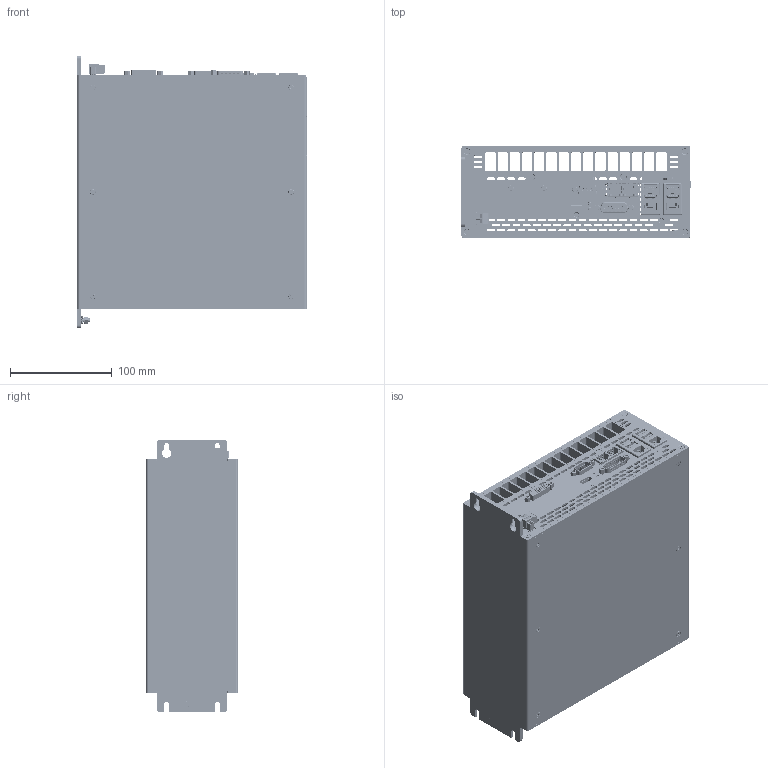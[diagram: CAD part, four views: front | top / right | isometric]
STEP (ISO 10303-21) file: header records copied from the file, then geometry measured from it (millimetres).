
FILE_DESCRIPTION (( 'STEP AP214' ), '1' );
FILE_NAME ('C6P34-BM_D0_DVI_RS232.STEP', '2019-09-20T14:01:16', ( '' ), ( '' ), 'SwSTEP 2.0', 'SolidWorks 2018', '' );
FILE_SCHEMA (( 'AUTOMOTIVE_DESIGN' ));
Length unit declared in the file: millimetre
Products named in the file (46): 14300036; piazzuola_de800_di370; 54336011; 21509048; 7359_051_Depopolata; 21505014; 21409042; 7397_212; 23330039; 62920001; foot2579_700000; 56636682; 7397_279_Depopolata; 7397_212_Depopolata; 7397_279; 21410052; 64312003; 21410046; 62990009; 20100011; 66811014; 14300030; 52500002; 21509026; C6P34-BM_D0_DVI_RS232; 21512011; 66320015; 62920005; 21405029; 53936027; 54336008_Default<A macchina>; 52536136; 21502089; 66011039; 57136005; 54236002_Default<A macchina>; 52912002; 21410056; 21614000; 61820002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
Assembly tree (103 placements, depth 3):
  C6P34-BM_D0_DVI_RS232
    52500002
      52536136
      52912002
      66320015  x4
    7359_051_Depopolata
      7359_051
      23330039  x4
      21410052
      21512011
      21410046  x2
      21410056
      21409042
      21405029  x2
      20100011
      21509026
      piazzuola_de800_di370  x8
      14300036  x7
    54236002_Default<A macchina>
    7397_279_Depopolata
      7397_279
      21502089
      piazzuola_de800_di370  x5
    21402062
    54336011
      54336008_Default<A macchina>
      57136005
      62990009  x2
      64312003  x2
      62120039
    56636682
    56636680
    53936027  x2
    21614000  x6
    66011039  x12
    66820000  x2
    66811014  x12
    62920001
    62920005
    62920011
    61820002
    7397_212_Depopolata
      7397_212
      14300030
      21505014
      foot2579_700000
      21509048
      piazzuola_de800_di370
Bounding box: 225.01 x 90 x 268 mm (x, y, z)
Volume: 501001.8 mm3; surface area: 923428 mm2
Topology: 184 solids, 294 shells, 25096 faces, 69110 edges, 44752 vertices
Faces by surface type: plane 16110, cylinder 7610, bspline 632, cone 587, torus 142, sphere 15
Entity records: 753840 total; most frequent: CARTESIAN_POINT 151652, ORIENTED_EDGE 114848, DIRECTION 106863, EDGE_CURVE 57577, VECTOR 40211, LINE 40211, VERTEX_POINT 37279, AXIS2_PLACEMENT_3D 33326
